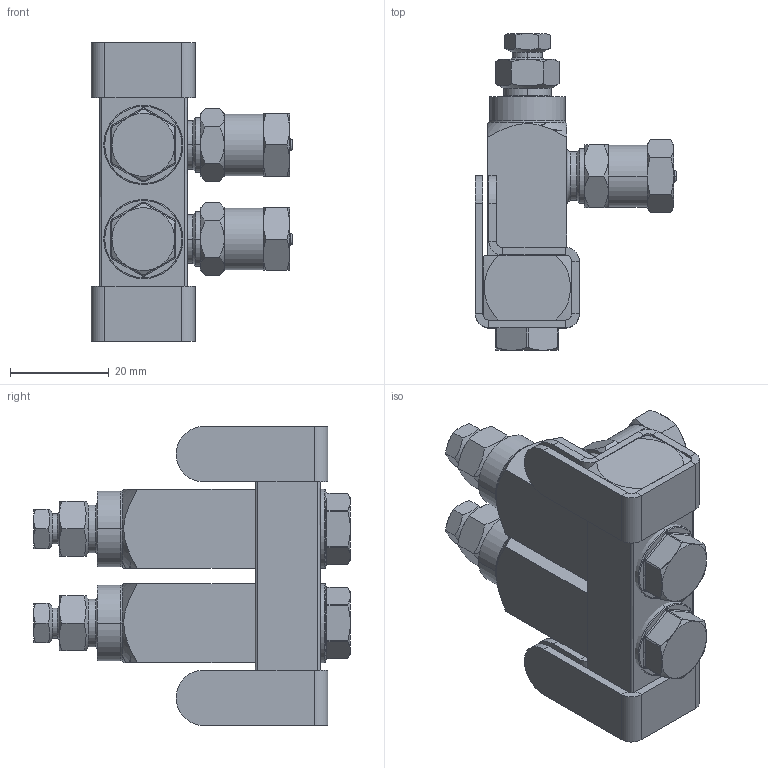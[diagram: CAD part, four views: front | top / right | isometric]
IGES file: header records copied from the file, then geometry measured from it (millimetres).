
Start section:  PTC IGES file: 24w402-en-d.igs
Global section: file name: 24w402-en-d.igs; native system: Creo Parametric by PTC Inc.; preprocessor: 2019030; author: qusrh3; organization: Unknown; date: 20200518.133104; units: inch
Bounding box: 40.76 x 64.06 x 60.45 mm (x, y, z)
Surface area: 19233.6 mm2 (no closed solid volume)
Topology: 0 solids, 0 shells, 370 faces, 1592 edges, 1592 vertices
Faces by surface type: revolution 220, bspline 150
